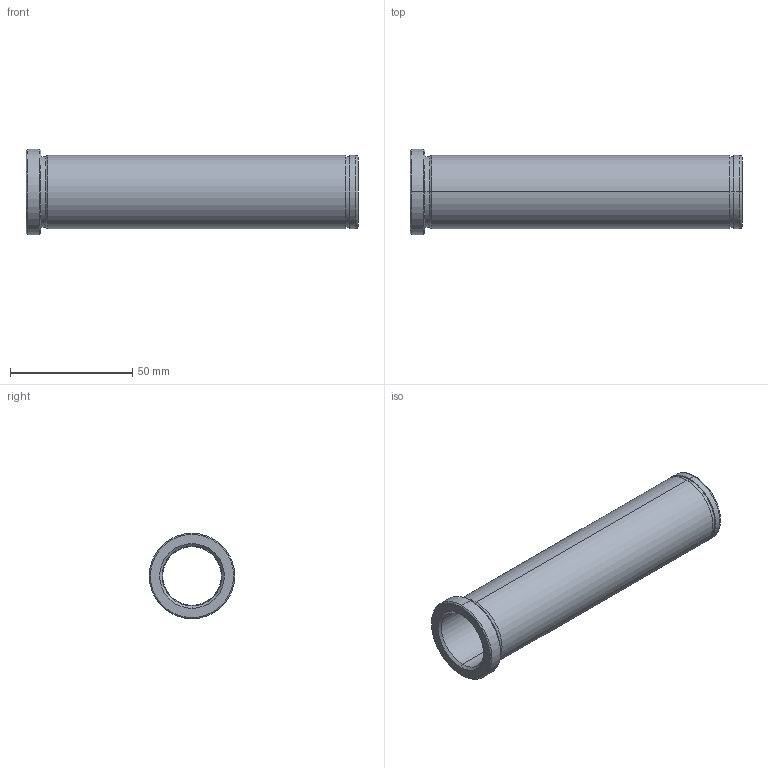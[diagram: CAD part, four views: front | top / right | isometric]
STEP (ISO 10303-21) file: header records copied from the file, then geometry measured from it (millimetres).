
FILE_DESCRIPTION(('CATIA V5 STEP Exchange'),'2;1');
FILE_NAME('C:\Users\Utente\Desktop\IO LAVORO\3D X SITO CF\X SITO\PLASTICA\553\553-24X136.stp','2021-05-25T18:25:53+00:00',('none'),('none'),'CATIA Version 5 Release 20 GA (IN-10)','CATIA V5 STEP AP203','none');
FILE_SCHEMA(('CONFIG_CONTROL_DESIGN'));
Length unit declared in the file: millimetre
Products named in the file (1): 553-24X136
Bounding box: 136 x 35 x 35 mm (x, y, z)
Volume: 34685.3 mm3; surface area: 24221.3 mm2
Topology: 1 solids, 1 shells, 32 faces, 102 edges, 76 vertices
Faces by surface type: cylinder 14, cone 8, plane 6, torus 4
Entity records: 1334 total; most frequent: CARTESIAN_POINT 389, ORIENTED_EDGE 204, DIRECTION 152, EDGE_CURVE 102, AXIS2_PLACEMENT_3D 99, VERTEX_POINT 76, CIRCLE 66, EDGE_LOOP 38
